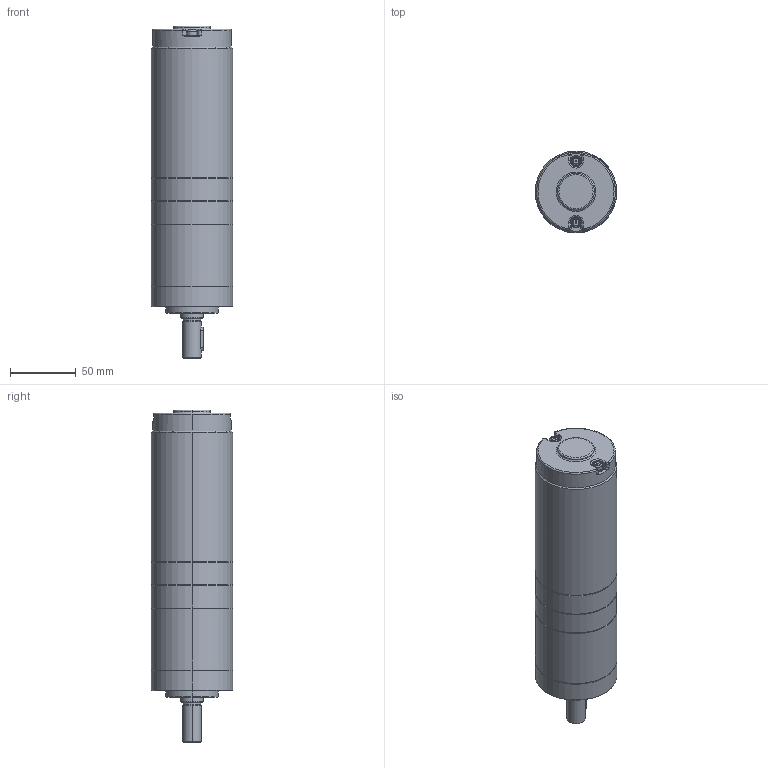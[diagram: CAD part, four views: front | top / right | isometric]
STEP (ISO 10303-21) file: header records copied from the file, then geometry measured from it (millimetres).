
FILE_DESCRIPTION (( 'STEP AP203' ), '1' );
FILE_NAME ('62ZPN有刷三级减速90W.STEP', '2021-07-17T08:19:02', ( '' ), ( '' ), 'SwSTEP 2.0', 'SolidWorks 2021', '' );
FILE_SCHEMA (( 'CONFIG_CONTROL_DESIGN' ));
Length unit declared in the file: millimetre
Products named in the file (1): 62ZPN有刷三级减速90W
Bounding box: 62 x 62 x 252.8 mm (x, y, z)
Volume: 645729.7 mm3; surface area: 52330.8 mm2
Topology: 1 solids, 1 shells, 277 faces, 645 edges, 385 vertices
Faces by surface type: plane 98, cylinder 97, cone 48, torus 27, bspline 7
Entity records: 8342 total; most frequent: CARTESIAN_POINT 1897, DIRECTION 1416, ORIENTED_EDGE 1266, EDGE_CURVE 633, AXIS2_PLACEMENT_3D 540, VERTEX_POINT 385, VECTOR 336, LINE 336
